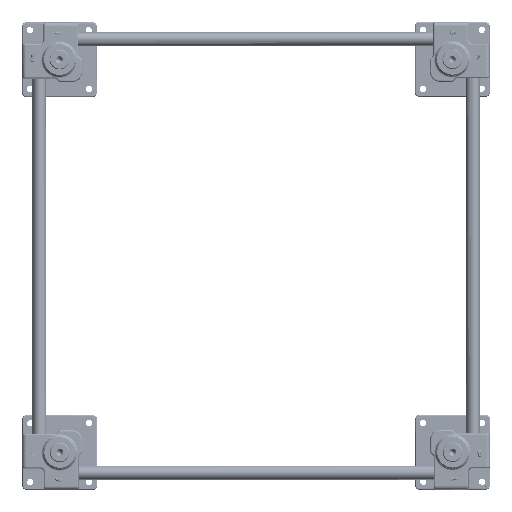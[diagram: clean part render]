
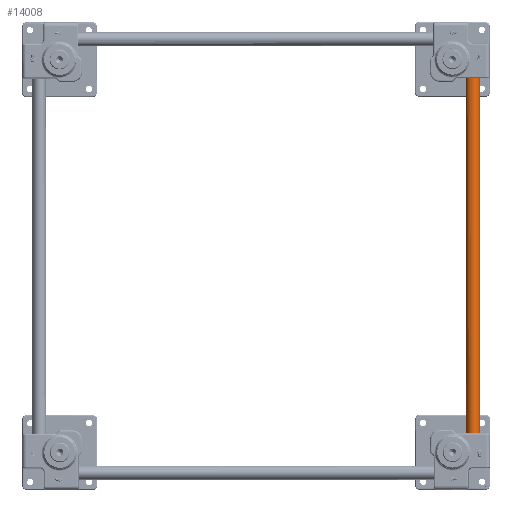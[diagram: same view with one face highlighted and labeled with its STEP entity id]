
A CAD part, top view. The second image highlights one B-rep face of the part: STEP entity #14008.
In plain terms, the highlighted cylindrical face has radius 17.5 mm (diameter 35 mm), a full revolution.
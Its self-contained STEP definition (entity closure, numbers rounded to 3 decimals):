
#14008=ADVANCED_FACE('',(#33550,#33551),#33552,.T.);
#33550=FACE_OUTER_BOUND('',#57155,.T.);
#33551=FACE_OUTER_BOUND('',#57156,.T.);
#33552=CYLINDRICAL_SURFACE('',#57157,17.5);
#57155=EDGE_LOOP('',(#135397));
#57156=EDGE_LOOP('',(#135398));
#57157=AXIS2_PLACEMENT_3D('',#135399,#135400,#135401);
#135397=ORIENTED_EDGE('',*,*,#160267,.T.);
#135398=ORIENTED_EDGE('',*,*,#160264,.T.);
#135399=CARTESIAN_POINT('',(0.0,0.0,50.0));
#135400=DIRECTION('',(0.0,0.0,-1.0));
#135401=DIRECTION('',(-1.0,0.0,0.0));
#160264=EDGE_CURVE('',#201340,#201340,#201341,.F.);
#160267=EDGE_CURVE('',#201346,#201346,#201347,.T.);
#201340=VERTEX_POINT('',#273276);
#201341=CIRCLE('',#273277,17.5);
#201346=VERTEX_POINT('',#273282);
#201347=CIRCLE('',#273283,17.5);
#273276=CARTESIAN_POINT('',(17.5,0.0,49.0));
#273277=AXIS2_PLACEMENT_3D('',#303526,#303527,#303528);
#273282=CARTESIAN_POINT('',(17.5,0.0,-1007.0));
#273283=AXIS2_PLACEMENT_3D('',#303535,#303536,#303537);
#303526=CARTESIAN_POINT('',(0.0,0.0,49.0));
#303527=DIRECTION('',(0.0,0.0,1.0));
#303528=DIRECTION('',(1.0,0.0,0.0));
#303535=CARTESIAN_POINT('',(0.0,0.0,-1007.0));
#303536=DIRECTION('',(0.0,0.0,1.0));
#303537=DIRECTION('',(1.0,0.0,0.0));
